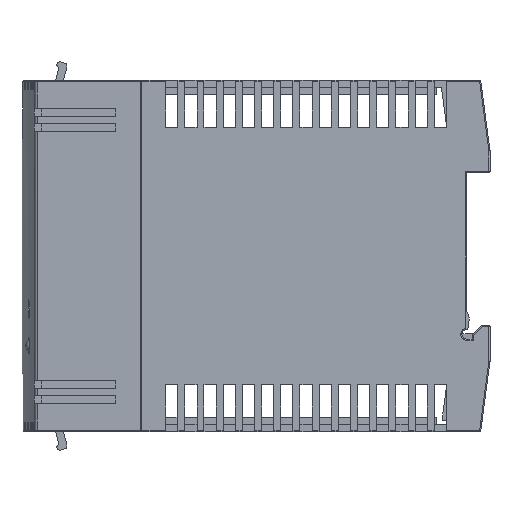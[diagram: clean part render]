
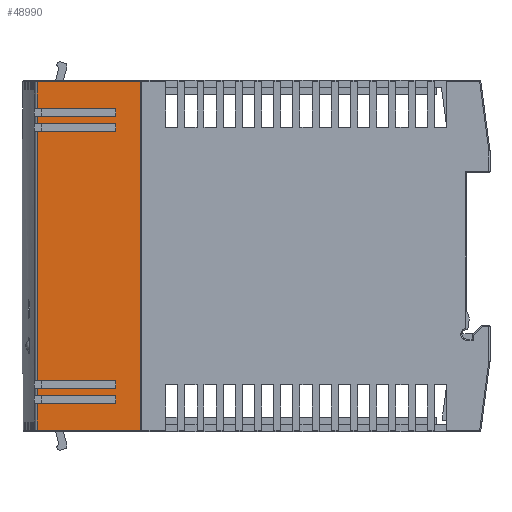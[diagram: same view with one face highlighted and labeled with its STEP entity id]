
A CAD part, front view. The second image highlights one B-rep face of the part: STEP entity #48990.
In plain terms, the highlighted planar face has unit normal (-0.008, -1, 0).
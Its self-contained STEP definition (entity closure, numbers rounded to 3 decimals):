
#2443=ORIENTED_EDGE('',*,*,#13081,.F.);
#2444=ORIENTED_EDGE('',*,*,#13082,.F.);
#2445=ORIENTED_EDGE('',*,*,#13078,.F.);
#2446=ORIENTED_EDGE('',*,*,#13083,.T.);
#2447=ORIENTED_EDGE('',*,*,#13084,.T.);
#2448=ORIENTED_EDGE('',*,*,#13085,.F.);
#2449=ORIENTED_EDGE('',*,*,#13086,.F.);
#2450=ORIENTED_EDGE('',*,*,#13087,.T.);
#2451=ORIENTED_EDGE('',*,*,#13088,.F.);
#2452=ORIENTED_EDGE('',*,*,#13089,.F.);
#2453=ORIENTED_EDGE('',*,*,#13090,.F.);
#2454=ORIENTED_EDGE('',*,*,#13091,.F.);
#2455=ORIENTED_EDGE('',*,*,#13092,.F.);
#2456=ORIENTED_EDGE('',*,*,#13093,.F.);
#2457=ORIENTED_EDGE('',*,*,#13094,.F.);
#2458=ORIENTED_EDGE('',*,*,#13095,.T.);
#2459=ORIENTED_EDGE('',*,*,#12685,.T.);
#2460=ORIENTED_EDGE('',*,*,#13096,.T.);
#2461=ORIENTED_EDGE('',*,*,#13097,.F.);
#2462=ORIENTED_EDGE('',*,*,#13098,.F.);
#12685=EDGE_CURVE('',#18116,#18115,#21760,.T.);
#13078=EDGE_CURVE('',#18452,#18453,#21996,.T.);
#13081=EDGE_CURVE('',#18454,#18455,#21997,.T.);
#13082=EDGE_CURVE('',#18453,#18454,#21998,.T.);
#13083=EDGE_CURVE('',#18452,#18456,#21999,.T.);
#13084=EDGE_CURVE('',#18456,#18457,#22000,.T.);
#13085=EDGE_CURVE('',#18458,#18457,#22001,.T.);
#13086=EDGE_CURVE('',#18459,#18458,#22002,.T.);
#13087=EDGE_CURVE('',#18459,#18460,#22003,.T.);
#13088=EDGE_CURVE('',#18461,#18460,#22004,.T.);
#13089=EDGE_CURVE('',#18462,#18461,#22005,.T.);
#13090=EDGE_CURVE('',#18463,#18462,#22006,.T.);
#13091=EDGE_CURVE('',#18464,#18463,#22007,.T.);
#13092=EDGE_CURVE('',#18465,#18464,#22008,.T.);
#13093=EDGE_CURVE('',#18466,#18465,#22009,.T.);
#13094=EDGE_CURVE('',#18467,#18466,#22010,.T.);
#13095=EDGE_CURVE('',#18467,#18116,#22011,.F.);
#13096=EDGE_CURVE('',#18115,#18468,#22012,.T.);
#13097=EDGE_CURVE('',#18469,#18468,#22013,.T.);
#13098=EDGE_CURVE('',#18455,#18469,#22014,.T.);
#18115=VERTEX_POINT('',#64397);
#18116=VERTEX_POINT('',#64399);
#18452=VERTEX_POINT('',#65202);
#18453=VERTEX_POINT('',#65203);
#18454=VERTEX_POINT('',#65208);
#18455=VERTEX_POINT('',#65209);
#18456=VERTEX_POINT('',#65212);
#18457=VERTEX_POINT('',#65214);
#18458=VERTEX_POINT('',#65216);
#18459=VERTEX_POINT('',#65218);
#18460=VERTEX_POINT('',#65220);
#18461=VERTEX_POINT('',#65222);
#18462=VERTEX_POINT('',#65224);
#18463=VERTEX_POINT('',#65226);
#18464=VERTEX_POINT('',#65228);
#18465=VERTEX_POINT('',#65230);
#18466=VERTEX_POINT('',#65232);
#18467=VERTEX_POINT('',#65234);
#18468=VERTEX_POINT('',#65237);
#18469=VERTEX_POINT('',#65239);
#21760=LINE('',#64398,#26713);
#21996=LINE('',#65201,#26949);
#21997=LINE('',#65207,#26950);
#21998=LINE('',#65210,#26951);
#21999=LINE('',#65211,#26952);
#22000=LINE('',#65213,#26953);
#22001=LINE('',#65215,#26954);
#22002=LINE('',#65217,#26955);
#22003=LINE('',#65219,#26956);
#22004=LINE('',#65221,#26957);
#22005=LINE('',#65223,#26958);
#22006=LINE('',#65225,#26959);
#22007=LINE('',#65227,#26960);
#22008=LINE('',#65229,#26961);
#22009=LINE('',#65231,#26962);
#22010=LINE('',#65233,#26963);
#22011=LINE('',#65235,#26964);
#22012=LINE('',#65236,#26965);
#22013=LINE('',#65238,#26966);
#22014=LINE('',#65240,#26967);
#26713=VECTOR('',#53974,1000.);
#26949=VECTOR('',#54536,1000.);
#26950=VECTOR('',#54543,1000.);
#26951=VECTOR('',#54544,1000.);
#26952=VECTOR('',#54545,1000.);
#26953=VECTOR('',#54546,1000.);
#26954=VECTOR('',#54547,1000.);
#26955=VECTOR('',#54548,1000.);
#26956=VECTOR('',#54549,1000.);
#26957=VECTOR('',#54550,1000.);
#26958=VECTOR('',#54551,1000.);
#26959=VECTOR('',#54552,1000.);
#26960=VECTOR('',#54553,1000.);
#26961=VECTOR('',#54554,1000.);
#26962=VECTOR('',#54555,1000.);
#26963=VECTOR('',#54556,1000.);
#26964=VECTOR('',#54557,1000.);
#26965=VECTOR('',#54558,1000.);
#26966=VECTOR('',#54559,1000.);
#26967=VECTOR('',#54560,1000.);
#31394=EDGE_LOOP('',(#2443,#2444,#2445,#2446,#2447,#2448,#2449,#2450,#2451,
#2452,#2453,#2454,#2455,#2456,#2457,#2458,#2459,#2460,#2461,#2462));
#33329=FACE_BOUND('',#31394,.T.);
#35175=PLANE('',#51008);
#48990=ADVANCED_FACE('',(#33329),#35175,.F.);
#51008=AXIS2_PLACEMENT_3D('',#65206,#54541,#54542);
#53974=DIRECTION('',(0.,0.,1.));
#54536=DIRECTION('',(0.,0.,1.));
#54541=DIRECTION('',(0.008,1.,0.));
#54542=DIRECTION('',(-1.,0.008,0.));
#54543=DIRECTION('',(0.,0.,1.));
#54544=DIRECTION('',(1.,-0.008,0.));
#54545=DIRECTION('',(1.,-0.008,0.));
#54546=DIRECTION('',(0.,0.,-1.));
#54547=DIRECTION('',(1.,-0.008,0.));
#54548=DIRECTION('',(0.,0.,1.));
#54549=DIRECTION('',(1.,-0.008,0.));
#54550=DIRECTION('',(0.,0.,1.));
#54551=DIRECTION('',(1.,-0.008,0.));
#54552=DIRECTION('',(0.,0.,1.));
#54553=DIRECTION('',(-1.,0.008,0.));
#54554=DIRECTION('',(0.,0.,1.));
#54555=DIRECTION('',(1.,-0.008,0.));
#54556=DIRECTION('',(0.,0.,1.));
#54557=DIRECTION('',(-1.,0.008,0.));
#54558=DIRECTION('',(-1.,0.008,0.));
#54559=DIRECTION('',(0.,0.,1.));
#54560=DIRECTION('',(-1.,0.008,0.));
#64397=CARTESIAN_POINT('',(-37.499,-42.746,37.246));
#64398=CARTESIAN_POINT('',(-37.499,-42.746,-37.504));
#64399=CARTESIAN_POINT('',(-37.499,-42.746,-37.254));
#65201=CARTESIAN_POINT('',(-59.521,-42.572,-37.504));
#65202=CARTESIAN_POINT('',(-59.521,-42.572,28.296));
#65203=CARTESIAN_POINT('',(-59.521,-42.572,29.796));
#65206=CARTESIAN_POINT('',(-37.499,-42.746,-37.504));
#65207=CARTESIAN_POINT('',(-42.799,-42.704,31.496));
#65208=CARTESIAN_POINT('',(-42.799,-42.704,29.796));
#65209=CARTESIAN_POINT('',(-42.799,-42.704,31.496));
#65210=CARTESIAN_POINT('',(-60.128,-42.567,29.796));
#65211=CARTESIAN_POINT('',(-60.128,-42.567,28.296));
#65212=CARTESIAN_POINT('',(-42.799,-42.704,28.296));
#65213=CARTESIAN_POINT('',(-42.799,-42.704,28.296));
#65214=CARTESIAN_POINT('',(-42.799,-42.704,26.596));
#65215=CARTESIAN_POINT('',(-42.799,-42.704,26.596));
#65216=CARTESIAN_POINT('',(-59.521,-42.572,26.596));
#65217=CARTESIAN_POINT('',(-59.521,-42.572,-37.504));
#65218=CARTESIAN_POINT('',(-59.521,-42.572,-26.604));
#65219=CARTESIAN_POINT('',(-42.799,-42.704,-26.604));
#65220=CARTESIAN_POINT('',(-42.799,-42.704,-26.604));
#65221=CARTESIAN_POINT('',(-42.799,-42.704,-28.304));
#65222=CARTESIAN_POINT('',(-42.799,-42.704,-28.304));
#65223=CARTESIAN_POINT('',(-60.128,-42.567,-28.304));
#65224=CARTESIAN_POINT('',(-59.521,-42.572,-28.304));
#65225=CARTESIAN_POINT('',(-59.521,-42.572,-37.504));
#65226=CARTESIAN_POINT('',(-59.521,-42.572,-29.804));
#65227=CARTESIAN_POINT('',(-60.128,-42.567,-29.804));
#65228=CARTESIAN_POINT('',(-42.799,-42.704,-29.804));
#65229=CARTESIAN_POINT('',(-42.799,-42.704,-31.504));
#65230=CARTESIAN_POINT('',(-42.799,-42.704,-31.504));
#65231=CARTESIAN_POINT('',(-60.128,-42.567,-31.504));
#65232=CARTESIAN_POINT('',(-59.521,-42.572,-31.504));
#65233=CARTESIAN_POINT('',(-59.521,-42.572,-37.504));
#65234=CARTESIAN_POINT('',(-59.521,-42.572,-37.254));
#65235=CARTESIAN_POINT('',(-37.499,-42.746,-37.254));
#65236=CARTESIAN_POINT('',(-37.499,-42.746,37.246));
#65237=CARTESIAN_POINT('',(-59.521,-42.572,37.246));
#65238=CARTESIAN_POINT('',(-59.521,-42.572,-37.504));
#65239=CARTESIAN_POINT('',(-59.521,-42.572,31.496));
#65240=CARTESIAN_POINT('',(-60.128,-42.567,31.496));
